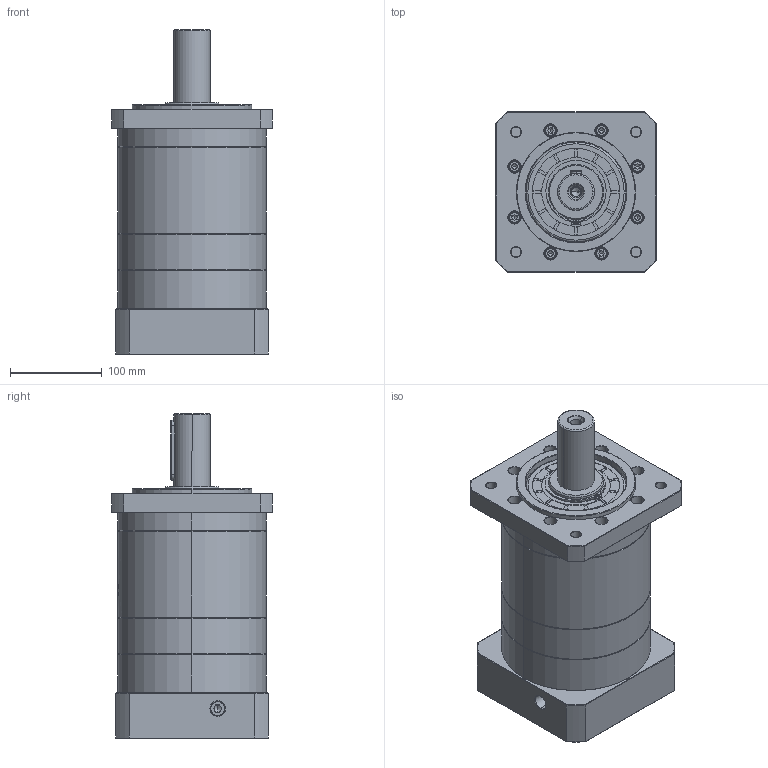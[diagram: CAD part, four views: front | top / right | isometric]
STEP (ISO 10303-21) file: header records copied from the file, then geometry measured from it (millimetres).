
FILE_DESCRIPTION (( 'STEP AP214' ), '1' );
FILE_NAME ('ZF160-D40-L3-28-130-174-M10.step', '2023-03-21T04:30:11', ( '' ), ( '' ), 'SwSTEP 2.0', 'SolidWorks 2016', '' );
FILE_SCHEMA (( 'AUTOMOTIVE_DESIGN' ));
Length unit declared in the file: millimetre
Products named in the file (1): ZF160-D40-L3-28-130-174-M10
Bounding box: 175 x 175 x 354.2 mm (x, y, z)
Volume: 5724705.6 mm3; surface area: 369190.8 mm2
Topology: 6 solids, 6 shells, 1642 faces, 4266 edges, 2728 vertices
Faces by surface type: plane 644, cylinder 428, cone 330, bspline 218, torus 22
Entity records: 93248 total; most frequent: CARTESIAN_POINT 37254, ORIENTED_EDGE 8472, DIRECTION 7176, EDGE_CURVE 4236, VERTEX_POINT 2728, AXIS2_PLACEMENT_3D 2488, VECTOR 2200, LINE 2200
